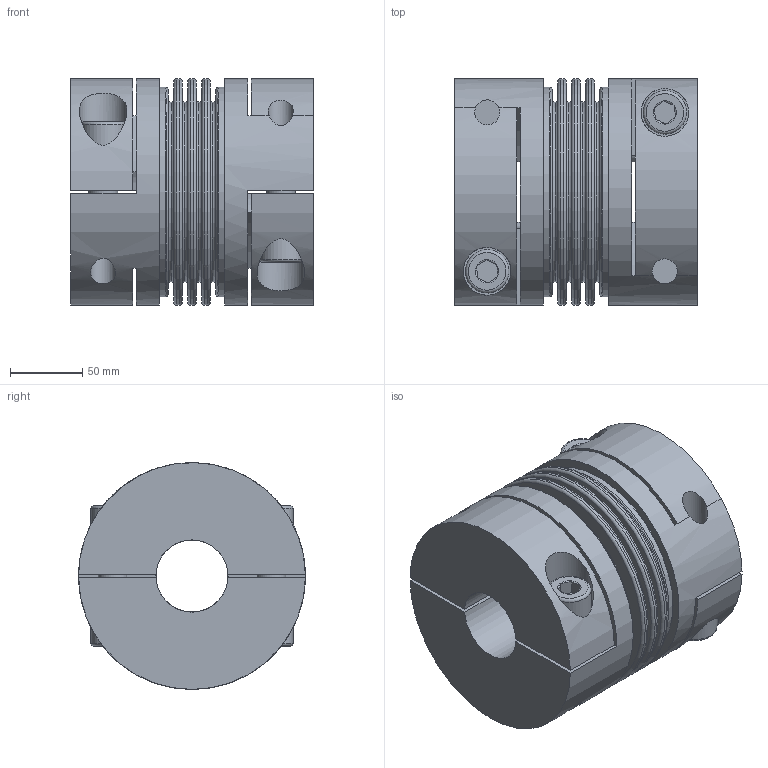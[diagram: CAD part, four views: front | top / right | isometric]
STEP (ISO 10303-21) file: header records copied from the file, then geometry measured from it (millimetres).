
FILE_DESCRIPTION( ( 'Unknown' ), '1' );
FILE_NAME( 'K:/Konstruktion/Homepage/KB4/KB4-1400-168.stp', 'Unknown', ( 'Unknown' ), ( 'Unknown' ), 'PSStep 16.0.42', 'Unknown', ' ' );
FILE_SCHEMA( ( 'AUTOMOTIVE_DESIGN { 1 0 10303 214 1 1 1 1 }' ) );
Length unit declared in the file: millimetre
Products named in the file (7): KN1400; KN1400_0; BK 1400; BK 1400_0; ISO EN DIN 4762 M20x60; Assem1
Assembly tree (10 placements, depth 3):
  Assem1
    BK 1400
      BK 1400_0
    KN1400  x2
      KN1400_0
    ISO EN DIN 4762 M20x60  x4
      ISO EN DIN 4762 M20x60
Bounding box: 168 x 157 x 157 mm (x, y, z)
Volume: 2206739.7 mm3; surface area: 374924.1 mm2
Topology: 7 solids, 7 shells, 190 faces, 393 edges, 247 vertices
Faces by surface type: plane 90, cylinder 52, torus 24, cone 24
Full cylindrical faces by diameter (mm): 17.294 x4, 18 x4, 20 x8, 22 x4, 30 x4, 33 x4, 50 x2, 80 x2, 123.3 x1, 144 x4, 145 x2, 157 x5
Entity records: 3336 total; most frequent: CARTESIAN_POINT 811, DIRECTION 398, ORIENTED_EDGE 248, AXIS2_PLACEMENT_3D 183, EDGE_LOOP 156, FACE_OUTER_BOUND 127, EDGE_CURVE 124, VERTEX_POINT 100
